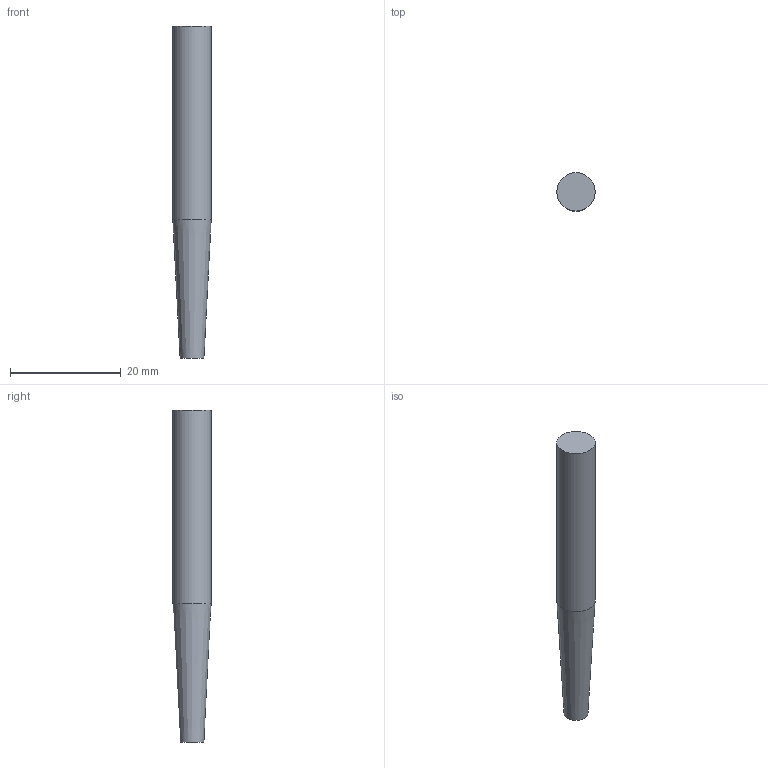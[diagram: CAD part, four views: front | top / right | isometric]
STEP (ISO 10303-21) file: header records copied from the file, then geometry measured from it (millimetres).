
FILE_DESCRIPTION( ( '' ), ' ' );
FILE_NAME( '/vol/tmp/translate-6056094326812035224/5a8b3b7b2e04360fe9ddd93d.step', '2018-02-19T21:02:52', ( '' ), ( '' ), ' ', ' ', ' ' );
FILE_SCHEMA( ( 'AUTOMOTIVE_DESIGN { 1 0 10303 214 1 1 1 1 }' ) );
Length unit declared in the file: metre
Products named in the file (1): Part 5
Bounding box: 6.94 x 6.94 x 60 mm (x, y, z)
Volume: 1954.6 mm3; surface area: 1257.3 mm2
Topology: 1 solids, 1 shells, 4 faces, 5 edges, 3 vertices
Faces by surface type: plane 2, cylinder 1, cone 1
Full cylindrical faces by diameter (mm): 6.935 x1
Entity records: 122 total; most frequent: DIRECTION 16, CARTESIAN_POINT 11, AXIS2_PLACEMENT_3D 8, EDGE_LOOP 6, ORIENTED_EDGE 6, FACE_OUTER_BOUND 5, STYLED_ITEM 4, PRESENTATION_STYLE_ASSIGNMENT 4
